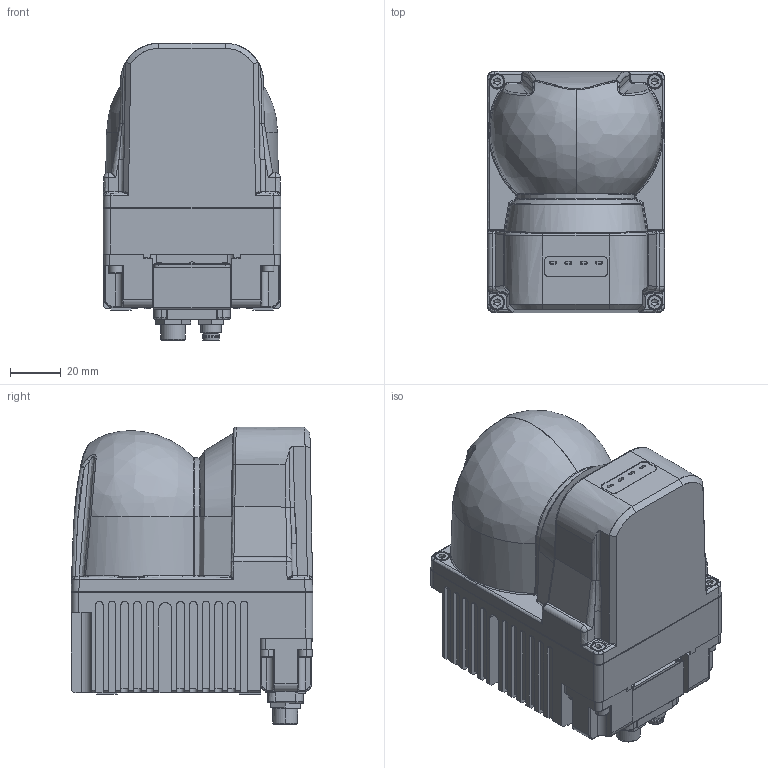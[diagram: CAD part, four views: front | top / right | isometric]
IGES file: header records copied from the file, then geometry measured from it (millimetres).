
Start section: SolidWorks IGES file using analytic representation for surfaces
Global section: file name: C:\Users\Administrator\Desktop\YVT3D蹬偯\UYVT001.IGS,1; native system: 5HSolidWorks 2017; preprocessor: SolidWorks 2017; author: Administrator; date: 171013.164634; units: millimetre
Bounding box: 70 x 95 x 117.08 mm (x, y, z)
Surface area: 75960.3 mm2 (no closed solid volume)
Topology: 0 solids, 0 shells, 1367 faces, 15162 edges, 15120 vertices
Faces by surface type: bspline 826, revolution 541
